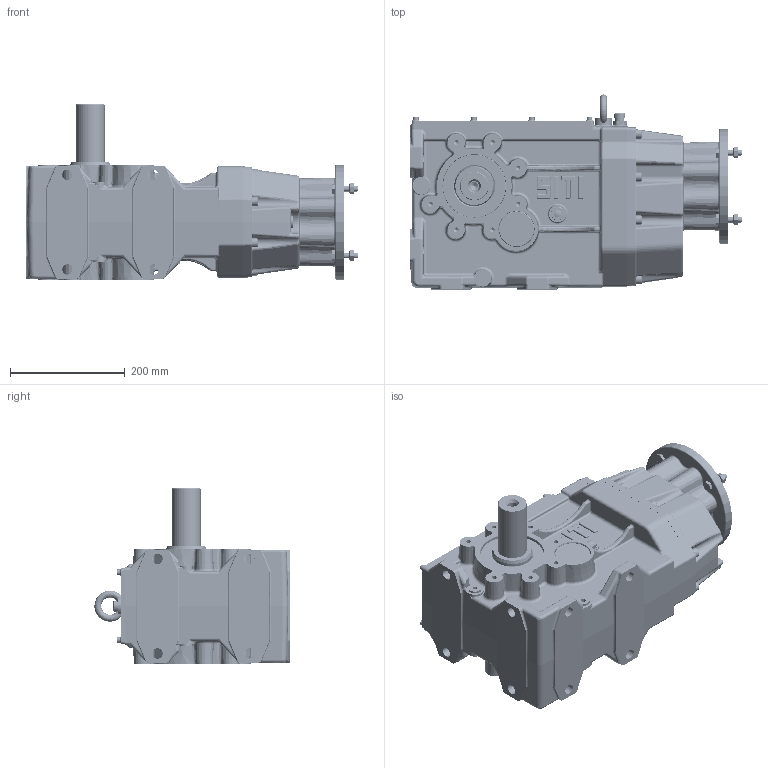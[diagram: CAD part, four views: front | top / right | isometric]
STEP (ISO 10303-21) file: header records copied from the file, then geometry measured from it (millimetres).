
FILE_DESCRIPTION((''),'2;1');
FILE_NAME('C:\Users\m.piscopiello.SITIRIDUTTORI\Desktop\3D x SITO\MBHGC 100 PAM 90\MBHGC_100 MS-B GR 90 B5.stp','2013-05-07T16:09:43',('m.piscopiello'),(''),'Autodesk Inventor 2012','Autodesk Inventor 2012','');
FILE_SCHEMA(('CONFIG_CONTROL_DESIGN'));
Length unit declared in the file: millimetre
Products named in the file (1): MBHGC_100 MS-B GR 90 B5
Bounding box: 578.5 x 339.9 x 305 mm (x, y, z)
Volume: 7806812.7 mm3; surface area: 1562402.1 mm2
Topology: 62 solids, 66 shells, 3930 faces, 9379 edges, 5605 vertices
Faces by surface type: cylinder 1182, plane 1141, bspline 720, torus 387, cone 346, sphere 154
Full cylindrical faces by diameter (mm): 4.917 x9, 6 x17, 6.4 x8, 6.647 x8, 7 x8, 8 x8, 8.376 x22, 9 x8, 10 x32, 10.106 x3, 11 x14, 12 x8, 12.5 x8, 13 x8, 13.835 x1, 14 x8, 14.95 x1, 16 x9, 16.6 x7, 17 x1, 18 x8, 19 x1, 19.05 x1, 19.5 x1, 20 x1, 30 x4, 31.9 x1, 37.5 x1, 39.386 x1, 39.986 x3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
Entity records: 137133 total; most frequent: CARTESIAN_POINT 48994, DIRECTION 17291, ORIENTED_EDGE 16912, EDGE_CURVE 8456, AXIS2_PLACEMENT_3D 7195, VERTEX_POINT 5369, EDGE_LOOP 4748, STYLED_ITEM 3992
